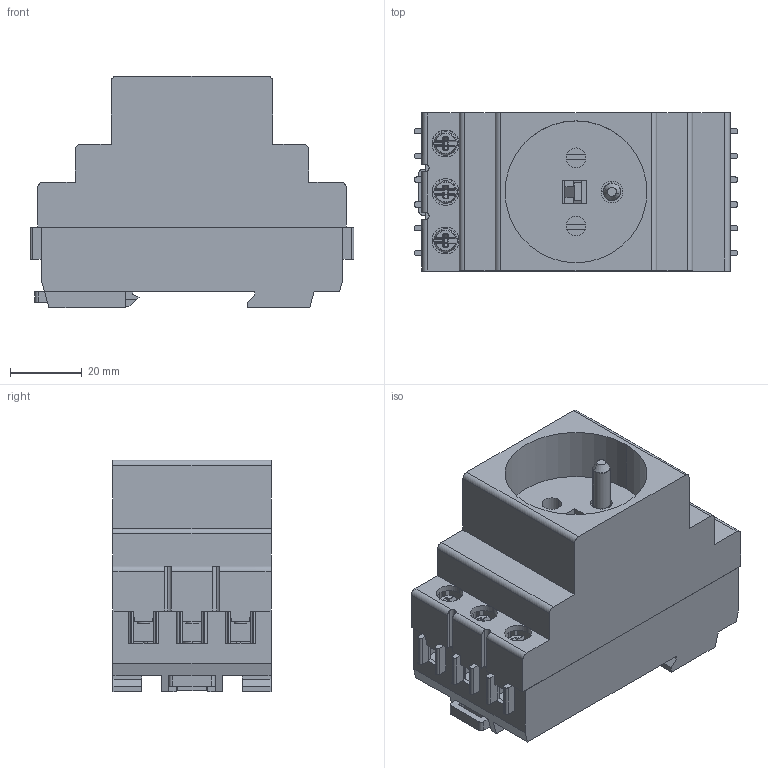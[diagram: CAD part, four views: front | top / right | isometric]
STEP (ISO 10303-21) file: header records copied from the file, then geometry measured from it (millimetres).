
FILE_DESCRIPTION (( 'STEP AP214' ), '1' );
FILE_NAME ('ZSE.step', '2011-08-23T11:45:07', ( 'Radek Veselý' ), ( 'Siemens and Partners' ), 'SwSTEP 2.0', 'SolidWorks 2006303', '' );
FILE_SCHEMA (( 'AUTOMOTIVE_DESIGN' ));
Length unit declared in the file: millimetre
Products named in the file (1): ZSE
Bounding box: 90 x 44 x 64.5 mm (x, y, z)
Volume: 59946.7 mm3; surface area: 57731.7 mm2
Topology: 7 solids, 7 shells, 906 faces, 2478 edges, 1586 vertices
Faces by surface type: plane 572, cylinder 270, sphere 24, torus 18, bspline 12, cone 10
Entity records: 38558 total; most frequent: CARTESIAN_POINT 5476, ORIENTED_EDGE 4908, DIRECTION 4698, EDGE_CURVE 2454, LINE 1824, VECTOR 1824, VERTEX_POINT 1586, AXIS2_PLACEMENT_3D 1437
